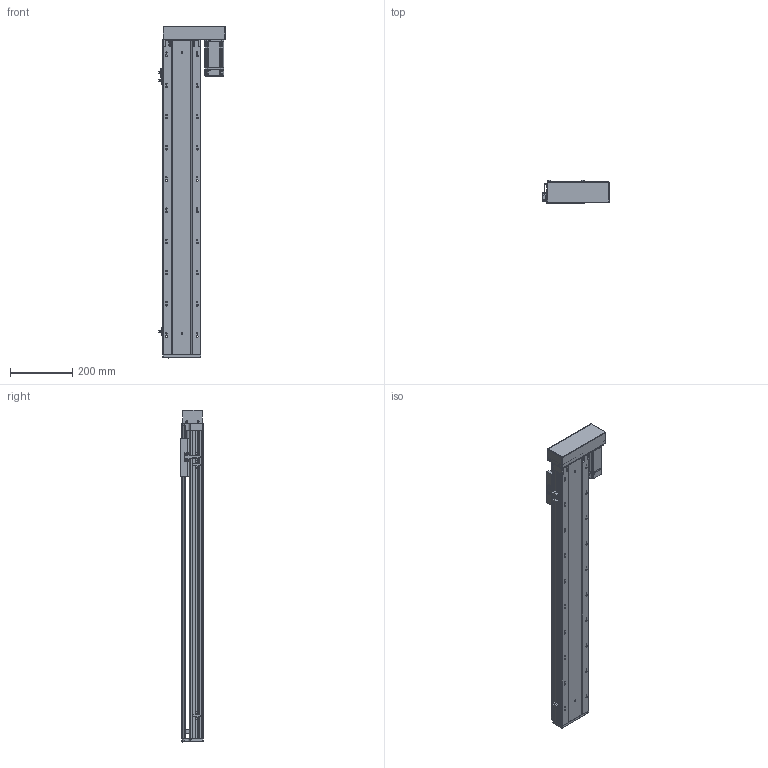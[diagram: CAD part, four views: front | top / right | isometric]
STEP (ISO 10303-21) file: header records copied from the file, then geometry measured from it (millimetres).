
FILE_DESCRIPTION (( 'STEP AP203' ), '1' );
FILE_NAME ('RY120-L2020-300-RK.SLDASM_800.step', '2021-03-12T07:14:48', ( '盈信电脑' ), ( '东莞市道滘镇水果街19号' ), 'SwSTEP 2.0', 'SolidWorks 2012', '' );
FILE_SCHEMA (( 'CONFIG_CONTROL_DESIGN' ));
Length unit declared in the file: millimetre
Products named in the file (15): RY120蛌殏萇儂欶; RY120-400W萇儂傷-酘衵殏_450; RY120-L2020-300-RK.SLDASM_800; 15; 侂狟400W侜督萇儂; RY120转拆电端丝杆支撑座(20丝杆，7002轴承); RY120酘殏萇儂假蚾啣; 覜茼ん672; 滅袉蝶18-24; RY120外置感应片(140共用）; 滅袉蝶18-10; RY120-300-RK蛌殏倰第菁釱_800; RY120-300-RK蛌殏倰第奻裔啣_800; RY120臏賑輸(20蹟譫); RY120綴裔啣
Assembly tree (17 placements, depth 4):
  RY120-L2020-300-RK.SLDASM_800
    RY120-300-RK蛌殏倰第菁釱_800
    RY120-300-RK蛌殏倰第奻裔啣_800
    RY120臏賑輸(20蹟譫)
    RY120綴裔啣
    覜茼ん672  x3
    滅袉蝶18-10
    滅袉蝶18-24  x2
    RY120外置感应片(140共用）
    RY120转拆电端丝杆支撑座(20丝杆，7002轴承)
    RY120-400W萇儂傷-酘衵殏_450
      RY120酘殏萇儂假蚾啣
      侂狟400W侜督萇儂
        15
      RY120蛌殏萇儂欶
Bounding box: 214.2 x 73 x 1064 mm (x, y, z)
Volume: 3103754.7 mm3; surface area: 1144502.2 mm2
Topology: 16 solids, 16 shells, 2570 faces, 7099 edges, 4546 vertices
Faces by surface type: plane 1246, cylinder 990, cone 229, bspline 105
Entity records: 86093 total; most frequent: CARTESIAN_POINT 24697, ORIENTED_EDGE 12878, DIRECTION 11787, EDGE_CURVE 6439, VERTEX_POINT 4214, AXIS2_PLACEMENT_3D 3941, LINE 3905, VECTOR 3905
